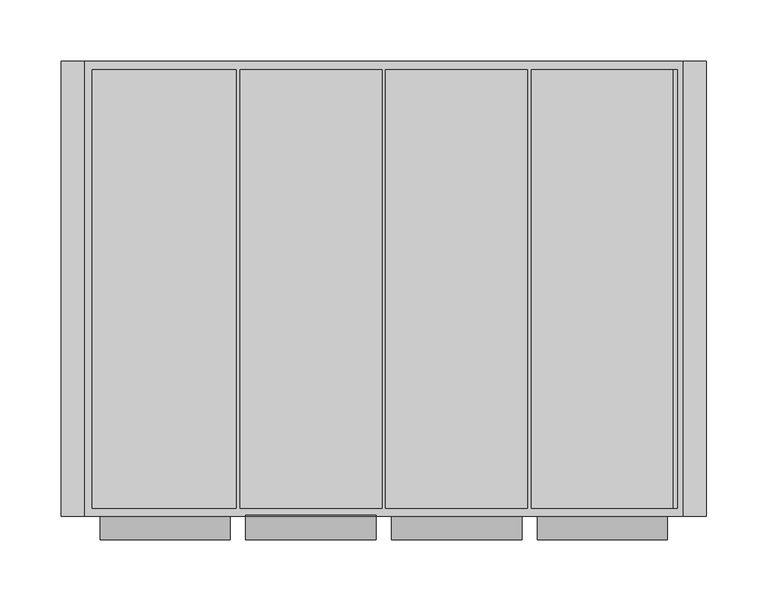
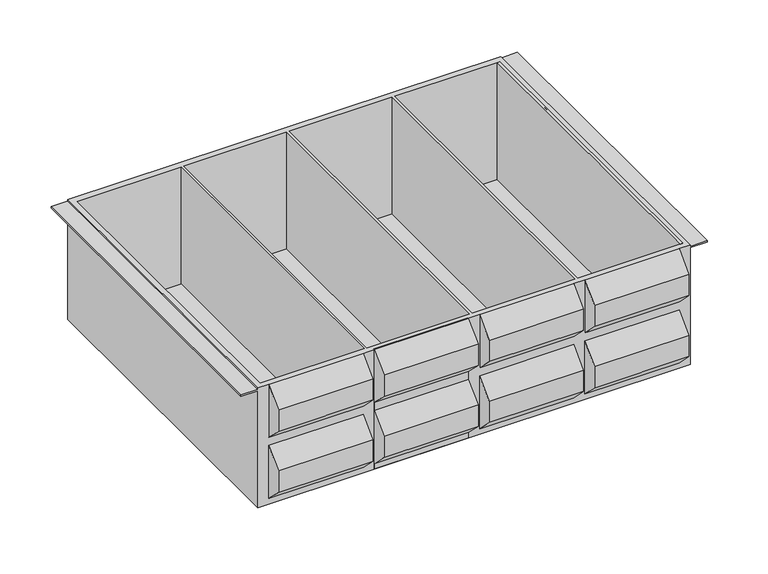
"""IFC4 building model written with IfcOpenShell, lengths in millimetres: furniture geometry."""

from ifc_helpers import new_model, si_unit, frame, origin, place, context, project, spatial, polyline, outline, extrude, faceted_brep, source, transform, mapped, element, save


def furniture_df956a46(model_context):
    return source(origin(), model_context, "Body", "SolidModel", [
        extrude(outline(polyline([(-188.9125, 814.3964277), (-169.8625, 833.4527777), (-169.8625, 842.9777731), (-188.9125, 862.0214231), (-188.9125, 887.421425), (-169.8498034, 906.4841216), (-169.06875, 906.4841216), (-169.06875, 763.6091216), (-169.8625, 763.6091216), (-169.8625, 769.9591246), (-188.9125, 788.9964246), (-188.9125, 814.3964277)])), frame((-119.0625, 0.0, 0.0), z_axis=(1.0, 0.0, 0.0), x_axis=(0.0, 1.0, 0.0)), (0.0, 0.0, 1.0), 106.3625),
        extrude(outline(polyline([(233.3752, 194.6275), (233.3752, -163.5125), (230.2002, -163.5125), (230.2002, 194.6275), (233.3752, 194.6275)])), frame((0.0, 0.0, 766.6352935), z_axis=(0.0, 0.0, 1.0), x_axis=(1.0, 0.0, 0.0)), (0.0, 0.0, 1.0), 139.8488281),
        faceted_brep([(-238.125, -169.8625, 906.4841216), (-250.825, -169.8625, 906.4841216), (-250.825, -169.8625, 904.8839246), (-269.875, -169.8625, 904.8839246), (-269.875, -169.8625, 903.2964246), (-250.825, -169.8625, 903.2964246), (-250.825, -169.8625, 763.6091216), (238.125, -169.8625, 763.6091216), (238.125, -169.8625, 903.2964246), (257.175, -169.8625, 903.2964246), (257.175, -169.8625, 904.8839246), (238.125, -169.8625, 904.8839246), (238.125, -169.8625, 906.4841216), (225.4377, -169.8625, 906.4841216), (225.4377, -169.8625, 842.977773), (119.0625, -169.8625, 842.977773), (119.0625, -169.8625, 906.4841216), (106.3625, -169.8625, 906.4841216), (106.3625, -169.8625, 842.9777731), (0.0, -169.8625, 842.9777731), (0.0, -169.8625, 906.4841216), (-131.7625, -169.8625, 906.4841216), (-131.7625, -169.8625, 842.9777731), (-238.125, -169.8625, 842.9777731), (-131.7625, -169.8625, 833.4527777), (-131.7625, -169.8625, 769.9591246), (-238.125, -169.8625, 769.9591246), (-238.125, -169.8625, 833.4527777), (106.3625, -169.8625, 833.4527776), (106.3625, -169.8625, 769.9591246), (0.0, -169.8625, 769.9591246), (0.0, -169.8625, 833.4527776), (119.0625, -169.8625, 769.9591245), (119.0625, -169.8625, 833.4527775), (225.4377, -169.8625, 833.4527775), (225.4377, -169.8625, 769.9591245), (-250.825, 201.6125, 906.4841216), (238.125, 201.6125, 906.4841216), (238.125, 201.6125, 904.8839246), (257.175, 201.6125, 904.8839246), (257.175, 201.6125, 903.2964246), (238.125, 201.6125, 903.2964246), (238.125, 201.6125, 763.6091216), (-250.825, 201.6125, 763.6091216), (-250.825, 201.6125, 903.2964246), (-269.875, 201.6125, 903.2964246), (-269.875, 201.6125, 904.8839246), (-250.825, 201.6125, 904.8839246), (-244.475, 194.6275, 906.4841216), (-127.0, 194.6275, 906.4841216), (-127.0, -163.5125, 906.4841216), (-244.475, -163.5125, 906.4841216), (-7.9375, -163.5125, 906.4841216), (-123.825, -163.5125, 906.4841216), (-123.825, 194.6275, 906.4841216), (-7.9375, 194.6275, 906.4841216), (111.125, -163.5125, 906.4841216), (-4.7625, -163.5125, 906.4841216), (-4.7625, 194.6275, 906.4841216), (111.125, 194.6275, 906.4841216), (231.775, 194.6275, 906.4841216), (231.775, -163.5125, 906.4841216), (114.3, -163.5125, 906.4841216), (114.3, 194.6275, 906.4841216), (-131.7625, -188.9125, 814.3964277), (-131.7625, -188.9125, 788.9964246), (-131.7625, -188.9125, 887.421425), (-131.7625, -188.9125, 862.0214231), (-238.125, -188.9125, 814.3964277), (-238.125, -188.9125, 788.9964246), (-238.125, -188.9125, 862.0214231), (-238.125, -188.9125, 887.421425), (231.775, -163.5125, 766.6352935), (231.775, 194.6275, 766.6352935), (114.3, 194.6275, 766.6352935), (114.3, -163.5125, 766.6352935), (-244.475, 194.6275, 766.6352935), (-244.475, -163.5125, 766.6352935), (-127.0, -163.5125, 766.6352935), (-127.0, 194.6275, 766.6352935), (-4.7625, -163.5125, 766.6352935), (111.125, -163.5125, 766.6352935), (111.125, 194.6275, 766.6352935), (-4.7625, 194.6275, 766.6352935), (-123.825, -163.5125, 766.6352935), (-7.9375, -163.5125, 766.6352935), (-7.9375, 194.6275, 766.6352935), (-123.825, 194.6275, 766.6352935), (106.3625, -188.9125, 814.3964277), (106.3625, -188.9125, 788.9964246), (106.3625, -188.9125, 887.421425), (106.3625, -188.9125, 862.0214231), (0.0, -188.9125, 814.3964277), (0.0, -188.9125, 788.9964246), (0.0, -188.9125, 862.0214231), (0.0, -188.9125, 887.421425), (119.0625, -188.9125, 814.3964277), (119.0625, -188.9125, 788.9964246), (119.0625, -188.9125, 862.0214231), (119.0625, -188.9125, 887.421425), (225.4377, -188.9125, 814.3964277), (225.4377, -188.9125, 788.9964246), (225.4377, -188.9125, 887.421425), (225.4377, -188.9125, 862.0214231)], [[[0, 1, 2, 3, 4, 5, 6, 7, 8, 9, 10, 11, 12, 13, 14, 15, 16, 17, 18, 19, 20, 21, 22, 23], [24, 25, 26, 27], [28, 29, 30, 31], [32, 33, 34, 35]], [[36, 37, 38, 39, 40, 41, 42, 43, 44, 45, 46, 47]], [[43, 42, 7, 6]], [[7, 42, 41, 8]], [[37, 12, 11, 38]], [[37, 36, 1, 0, 21, 20, 17, 16, 13, 12], [48, 49, 50, 51], [52, 53, 54, 55], [56, 57, 58, 59], [60, 61, 62, 63]], [[43, 6, 5, 44]], [[1, 36, 47, 2]], [[64, 65, 25, 24]], [[21, 66, 67, 22]], [[68, 27, 26, 69]], [[23, 70, 71, 0]], [[65, 64, 68, 69]], [[25, 65, 69, 26]], [[66, 21, 0, 71]], [[67, 66, 71, 70]], [[22, 67, 70, 23]], [[64, 24, 27, 68]], [[72, 73, 74, 75]], [[76, 77, 78, 79]], [[80, 81, 82, 83]], [[84, 85, 86, 87]], [[53, 52, 85, 84]], [[57, 56, 81, 80]], [[61, 72, 75, 62]], [[77, 51, 50, 78]], [[73, 72, 61, 60]], [[55, 54, 87, 86]], [[59, 58, 83, 82]], [[73, 60, 63, 74]], [[48, 76, 79, 49]], [[77, 76, 48, 51]], [[88, 89, 29, 28]], [[17, 90, 91, 18]], [[92, 31, 30, 93]], [[19, 94, 95, 20]], [[89, 88, 92, 93]], [[29, 89, 93, 30]], [[90, 17, 20, 95]], [[91, 90, 95, 94]], [[18, 91, 94, 19]], [[88, 28, 31, 92]], [[96, 33, 32, 97]], [[15, 98, 99, 16]], [[100, 101, 35, 34]], [[13, 102, 103, 14]], [[33, 96, 100, 34]], [[98, 15, 14, 103]], [[99, 98, 103, 102]], [[16, 99, 102, 13]], [[97, 32, 35, 101]], [[96, 97, 101, 100]], [[46, 45, 4, 3]], [[47, 46, 3, 2]], [[45, 44, 5, 4]], [[41, 40, 9, 8]], [[39, 38, 11, 10]], [[40, 39, 10, 9]], [[54, 53, 84, 87]], [[50, 49, 79, 78]], [[63, 62, 75, 74]], [[56, 59, 82, 81]], [[58, 57, 80, 83]], [[52, 55, 86, 85]]]),
    ])


if __name__ == "__main__":
    model = new_model("IFC4")
    model_context = context("Model", 3, world=origin())
    ifc_project = project(units=[si_unit("LENGTHUNIT", "METRE", prefix="MILLI")], contexts=[model_context])
    site = spatial("IfcSite", under=ifc_project)
    building = spatial("IfcBuilding", under=site)
    placement = place(None, origin())
    furniture_shape = furniture_df956a46(model_context)
    element("IfcFurniture", 1, ObjectType="HermanMiller_Carts_CT542_Cassette : 6\"H x 15\"D x 20\"W Bin", at=placement, inside=building, context=model_context, shape_type="MappedRepresentation", body=[
        mapped(furniture_shape, transform((0.0, 0.0, 0.0), x_axis=(1.0, 0.0, 0.0), y_axis=(0.0, 1.0, 0.0), z_axis=(0.0, 0.0, 1.0))),
    ])
    save(model, "model.ifc")
